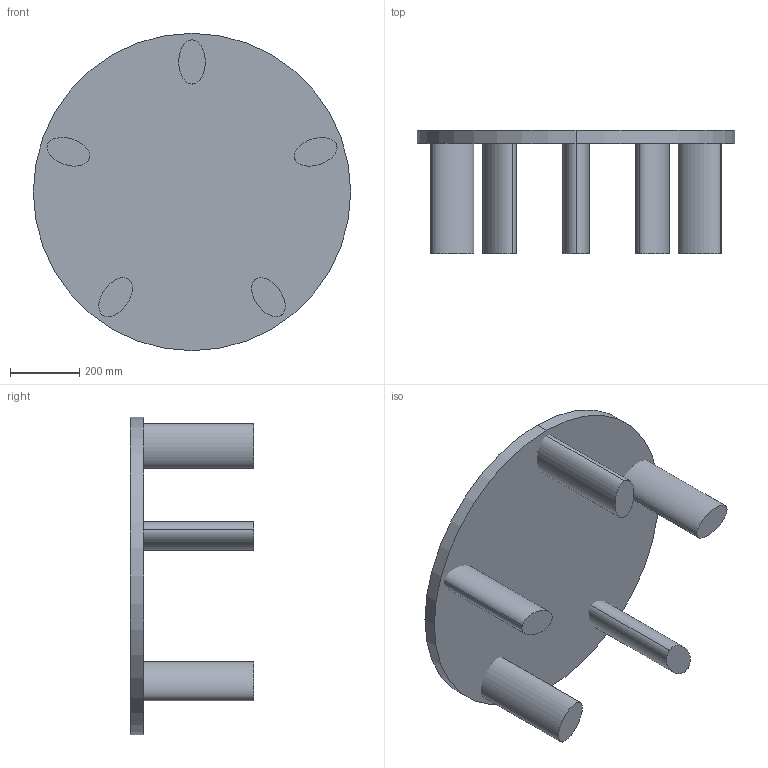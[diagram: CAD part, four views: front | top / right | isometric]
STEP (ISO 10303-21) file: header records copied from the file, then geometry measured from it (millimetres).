
FILE_DESCRIPTION (( 'STEP AP203' ), '1' );
FILE_NAME ('Matter Made Orbit Coffee Table.STEP', '2022-11-02T19:51:59', ( '' ), ( '' ), 'SwSTEP 2.0', 'SolidWorks 2021', '' );
FILE_SCHEMA (( 'CONFIG_CONTROL_DESIGN' ));
Length unit declared in the file: millimetre
Products named in the file (1): Matter Made Orbit Coffee Table
Bounding box: 914.4 x 355.6 x 914.4 mm (x, y, z)
Volume: 37207302.8 mm3; surface area: 2018648.6 mm2
Topology: 6 solids, 6 shells, 24 faces, 36 edges, 24 vertices
Faces by surface type: plane 12, bspline 10, cylinder 2
Entity records: 621 total; most frequent: CARTESIAN_POINT 215, ORIENTED_EDGE 72, DIRECTION 50, EDGE_CURVE 36, ADVANCED_FACE 24, EDGE_LOOP 24, FACE_OUTER_BOUND 24, VERTEX_POINT 24
